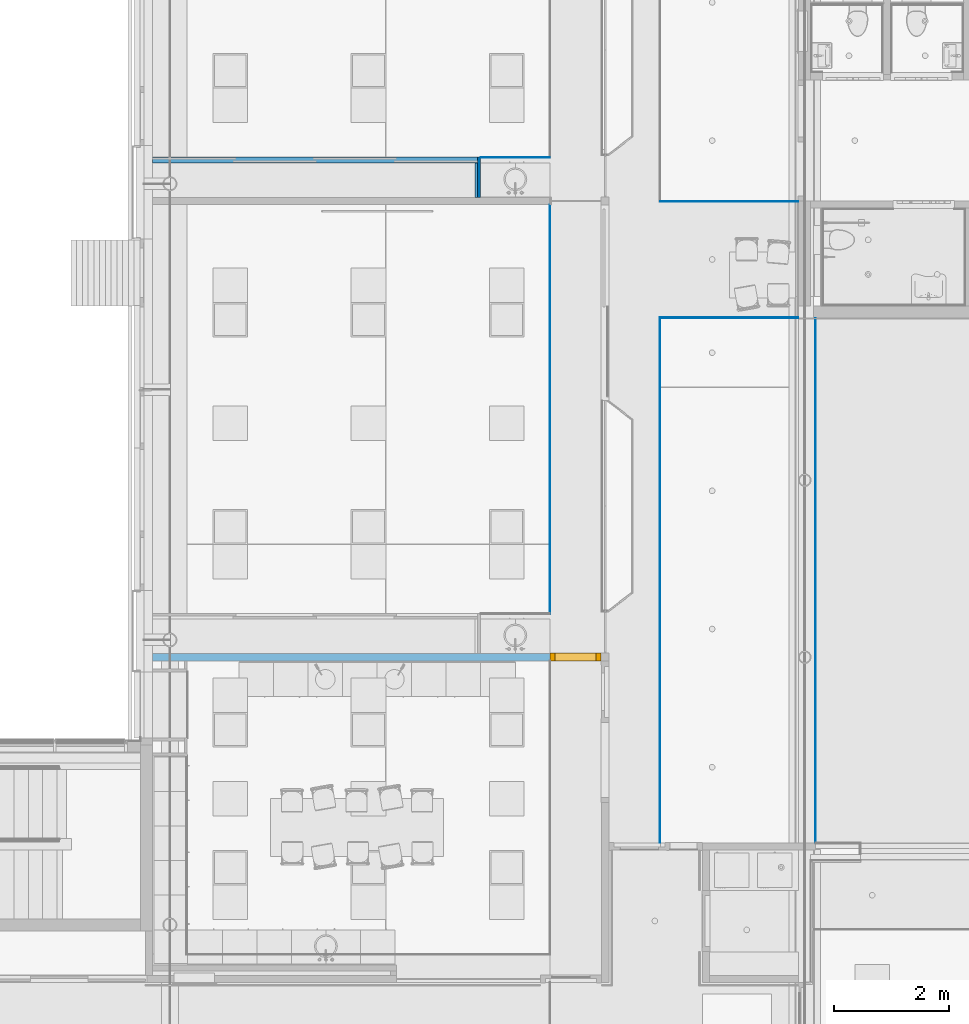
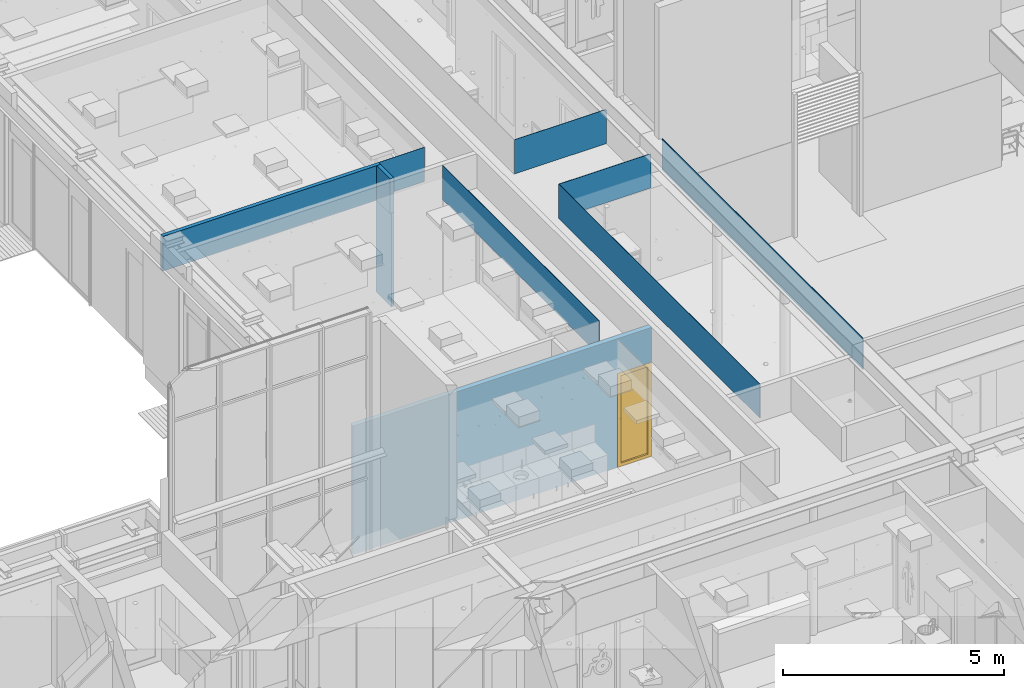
# One storey, part 71 of 347: 9 walls, 1 window, 1 opening, plus 1 element that does not belong to this part.
"""IFC2X3 building model written with IfcOpenShell, lengths in millimetres."""

from ifc_helpers import new_model, entity, si_unit, converted_unit, derived_unit, money_unit, direction, frame, origin_with_axes, place, context, subcontext, project, spatial, open_shell, faceted_brep, surface_model, material, type_object, element, fill, save


model = new_model("IFC2X3")

# Units and contexts
model_context = context("Model", 3, precision=0.01, world=origin_with_axes(), true_north=direction((0.0, 1.0)))
plan_context = context("Plan", 3, precision=0.01, world=origin_with_axes(), true_north=direction((0.0, 1.0)))
body_context = subcontext(model_context, "Body", "Model", "MODEL_VIEW")
ifc_project = project(units=[si_unit("LENGTHUNIT", "METRE", prefix="MILLI"), si_unit("AREAUNIT", "SQUARE_METRE"), si_unit("VOLUMEUNIT", "CUBIC_METRE"), converted_unit("PLANEANGLEUNIT", "DEGREE", entity("IfcPlaneAngleMeasure", 0.0174532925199), si_unit("PLANEANGLEUNIT", "RADIAN"), dimensions=[0, 0, 0, 0, 0, 0, 0]), money_unit("EUR"), converted_unit("TIMEUNIT", "Year", entity("IfcTimeMeasure", 31556926.0), si_unit("TIMEUNIT", "SECOND"), dimensions=[0, 0, 1, 0, 0, 0, 0]), si_unit("MASSUNIT", "GRAM", prefix="KILO"), si_unit("THERMODYNAMICTEMPERATUREUNIT", "DEGREE_CELSIUS"), si_unit("LUMINOUSINTENSITYUNIT", "LUMEN"), si_unit("ENERGYUNIT", "JOULE", prefix="MEGA"), derived_unit("THERMALCONDUCTANCEUNIT", [(si_unit("POWERUNIT", "WATT"), 1), (si_unit("LENGTHUNIT", "METRE"), -1), (si_unit("THERMODYNAMICTEMPERATUREUNIT", "KELVIN"), -1)]), derived_unit("SPECIFICHEATCAPACITYUNIT", [(si_unit("ENERGYUNIT", "JOULE"), 1), (si_unit("MASSUNIT", "GRAM", prefix="KILO"), -1), (si_unit("THERMODYNAMICTEMPERATUREUNIT", "KELVIN"), -1)]), derived_unit("MASSDENSITYUNIT", [(si_unit("MASSUNIT", "GRAM", prefix="KILO"), 1), (si_unit("VOLUMEUNIT", "CUBIC_METRE"), -1)])], contexts=[model_context, plan_context])

# Site, building, storey
site_placement = place(None, origin_with_axes())
site = spatial("IfcSite", under=ifc_project, at=site_placement, Name="Site", CompositionType="ELEMENT")
building_placement = place(site_placement, origin_with_axes())
building = spatial("IfcBuilding", under=site, at=building_placement, Name="Naam gebouw", CompositionType="ELEMENT")
storey_placement = place(building_placement, origin_with_axes())
storey = spatial("IfcBuildingStorey", under=building, at=storey_placement, Name="begane grond", CompositionType="ELEMENT", Elevation=0.0)

# Wall, opening, window
ifc_material_1 = material(Name="ALG - LICHTE SCHEIDINGSWAND")
wall_type_1 = type_object("IfcWallType", Name="ALG LSW 125 125", PredefinedType="NOTDEFINED")
wall_1_placement = place(storey_placement, frame((24275.0, 20050.0, 0.0), z_axis=(0.0, 0.0, 1.0), x_axis=(1.0, 0.0, 0.0)))
wall_1 = element("IfcWall", 1, at=wall_1_placement, inside=storey, type_object=wall_type_1, material=ifc_material_1, Name="22_GF 125 ECO DGS/2.75.2A", context=body_context, shape_type="Brep", body=[
    faceted_brep([(7793.0, 62.5, 2600.0), (6900.0, 62.5, 2600.0), (6900.0, 62.5, 0.0), (8.19561662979e-06, 62.5, -3.65078798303e-05), (8.19561662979e-06, 62.5, 3560.0), (7800.0, 62.5, 3559.99999992), (7800.0, 62.5, -1.15295062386e-06), (7793.0, 62.5, 0.0), (6900.0, -62.5, 2600.0), (7793.0, -62.5, 2600.0), (6900.0, -62.5, 0.0), (8.19561662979e-06, -62.5, -3.65078798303e-05), (8.19561662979e-06, -62.5, 3560.0), (7800.0, -62.5, 3559.99999992), (7800.0, -62.5, -1.15295062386e-06), (7793.0, -62.5, 0.0)], [[[0, 1, 2, 3, 4, 5, 6, 7]], [[8, 1, 0, 9]], [[10, 2, 1, 8]], [[3, 2, 10, 11]], [[12, 4, 3, 11]], [[5, 4, 12, 13]], [[14, 6, 5, 13]], [[14, 15, 7, 6]], [[9, 0, 7, 15]], [[8, 9, 15, 14, 13, 12, 11, 10]]]),
])
opening_placement = place(wall_1_placement, frame((7346.5, 0.0, 0.0), z_axis=(0.0, 0.0, 1.0), x_axis=(1.0, 0.0, 0.0)))
opening = element("IfcOpeningElement", 2, at=opening_placement, cuts=wall_1, Name="31_07.02", context=body_context, shape_type="Brep", body=[
    faceted_brep([(-446.5, 125.0, 2600.0), (-446.5, 125.0, 0.0), (-446.5, -257.0, 0.0), (-446.5, -257.0, 2600.0), (446.5, 125.0, 2600.0), (446.5, 125.0, 0.0), (446.5, -257.0, 0.0), (446.5, -257.0, 2600.0)], [[[0, 1, 2, 3]], [[0, 4, 5, 1]], [[1, 5, 6, 2]], [[3, 2, 6, 7]], [[4, 0, 3, 7]], [[5, 4, 7, 6]]]),
])
window_style = type_object("IfcWindowStyle", Name="Rmeerkeuze 25", ConstructionType="NOTDEFINED", OperationType="SINGLE_PANEL", ParameterTakesPrecedence=False, Sizeable=False)
window_placement = place(opening_placement, frame((446.5, 0.0, 0.0), z_axis=(0.0, 0.0, 1.0), x_axis=(-1.0, 0.0, 0.0)))
window = element("IfcWindow", 3, at=window_placement, inside=storey, type_object=window_style, Name="31_07.02", ObjectType="WINDOW", OverallHeight=2600.0, OverallWidth=893.0, context=body_context, shape_type="SurfaceModel", body=[
    faceted_brep([(90.0, -69.5, 2510.0), (90.0, 69.5, 2510.0), (0.0, 69.5, 2510.0), (0.0, -69.5, 2510.0), (90.0, -69.5, 90.0), (90.0, 69.5, 90.0), (0.0, 69.5, 90.0), (0.0, -69.5, 90.0)], [[[0, 1, 2, 3]], [[4, 5, 1, 0]], [[1, 5, 6, 2]], [[3, 2, 6, 7]], [[0, 3, 7, 4]], [[7, 6, 5, 4]]]),
    faceted_brep([(803.0, -69.5, 90.0), (803.0, 69.5, 90.0), (893.0, 69.5, 90.0), (893.0, -69.5, 90.0), (803.0, -69.5, 2510.0), (803.0, 69.5, 2510.0), (893.0, 69.5, 2510.0), (893.0, -69.5, 2510.0)], [[[0, 1, 2, 3]], [[4, 5, 1, 0]], [[1, 5, 6, 2]], [[3, 2, 6, 7]], [[0, 3, 7, 4]], [[7, 6, 5, 4]]]),
    faceted_brep([(90.0, -69.5, 90.0), (90.0, 69.5, 90.0), (0.0, 69.5, 90.0), (0.0, -69.5, 90.0), (803.0, -69.5, 90.0), (803.0, 69.5, 90.0), (893.0, 69.5, 90.0), (893.0, 69.5, 0.0), (0.0, 69.5, 0.0), (0.0, -69.5, 0.0), (893.0, -69.5, 0.0), (893.0, -69.5, 90.0)], [[[0, 1, 2, 3]], [[4, 5, 1, 0]], [[1, 5, 6, 7, 8, 2]], [[3, 2, 8, 9]], [[0, 3, 9, 10, 11, 4]], [[11, 6, 5, 4]], [[10, 7, 6, 11]], [[9, 8, 7, 10]]]),
    faceted_brep([(803.0, -69.5, 2510.0), (803.0, 69.5, 2510.0), (893.0, 69.5, 2510.0), (893.0, -69.5, 2510.0), (90.0, -69.5, 2510.0), (90.0, 69.5, 2510.0), (0.0, 69.5, 2510.0), (0.0, 69.5, 2600.0), (893.0, 69.5, 2600.0), (893.0, -69.5, 2600.0), (0.0, -69.5, 2600.0), (0.0, -69.5, 2510.0)], [[[0, 1, 2, 3]], [[4, 5, 1, 0]], [[1, 5, 6, 7, 8, 2]], [[3, 2, 8, 9]], [[0, 3, 9, 10, 11, 4]], [[11, 6, 5, 4]], [[10, 7, 6, 11]], [[9, 8, 7, 10]]]),
    surface_model("IfcShellBasedSurfaceModel", [(90.0, 5.5, 90.0), (803.0, 5.5, 90.0), (803.0, 5.5, 2510.0), (90.0, 5.5, 2510.0)], [open_shell([[[0, 1, 2, 3]]])]),
    surface_model("IfcShellBasedSurfaceModel", [(90.0, 25.5, 90.0), (90.0, 25.5, 2510.0), (803.0, 25.5, 2510.0), (803.0, 25.5, 90.0)], [open_shell([[[0, 1, 2, 3]]])]),
])
fill(opening, window)

# Walls
wall_type_2 = type_object("IfcWallType", Name="44 koof 50", PredefinedType="NOTDEFINED")
wall_2_placement = place(storey_placement, frame((33095.0, 16825.0, 2600.0), z_axis=(0.0, 0.0, 1.0), x_axis=(0.0, 1.0, 0.0)))
element("IfcWall", 4, at=wall_2_placement, inside=storey, type_object=wall_type_2, material=ifc_material_1, Name="21_22 betonwand", context=body_context, shape_type="Brep", body=[
    faceted_brep([(0.0, 0.0, 960.0), (0.0, 0.0, 12.0), (9127.00013226, 0.0, 12.0), (9127.00013226, 0.0, 960.0), (0.0, 12.0, 960.0), (0.0, 12.0, 12.0), (9127.00013226, 12.0, 12.0), (9127.00013226, 12.0, 960.0)], [[[0, 1, 2, 3]], [[4, 5, 1, 0]], [[5, 6, 2, 1]], [[3, 2, 6, 7]], [[0, 3, 7, 4]], [[7, 6, 5, 4]]]),
])
wall_3_placement = place(storey_placement, frame((35795.0, 16825.0, 3000.0), z_axis=(0.0, 0.0, 1.0), x_axis=(0.0, 1.0, 0.0)))
element("IfcWall", 5, at=wall_3_placement, inside=storey, type_object=wall_type_2, material=ifc_material_1, Name="21_22 betonwand", context=body_context, shape_type="Brep", body=[
    faceted_brep([(0.000945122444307, 0.0, 880.0), (0.0, 0.0, 12.0), (9115.0, 0.0, 12.0), (9115.0, 0.0, 880.0), (0.000945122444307, 12.0, 880.0), (0.0, 12.0, 12.0), (9115.0, 12.0000000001, 12.0), (9115.0, 12.0000000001, 880.0)], [[[0, 1, 2, 3]], [[4, 5, 1, 0]], [[5, 6, 2, 1]], [[3, 2, 6, 7]], [[3, 7, 4, 0]], [[7, 6, 5, 4]]]),
])
wall_4_placement = place(storey_placement, frame((33095.0, 25940.0001323, 2600.0), z_axis=(0.0, 0.0, 1.0), x_axis=(1.0, 0.0, 0.0)))
element("IfcWall", 6, at=wall_4_placement, inside=storey, type_object=wall_type_2, material=ifc_material_1, Name="21_22 betonwand", context=body_context, shape_type="Brep", body=[
    faceted_brep([(2400.00005485, 0.0, 960.0), (2400.00005485, -0.000132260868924, 12.0), (2400.00005485, 12.0, 12.0), (2400.00005485, 12.0, 960.0), (0.0, 0.0, 960.0), (0.0, -0.000132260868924, 12.0), (0.0, 12.0, 12.0), (0.0, 12.0, 960.0)], [[[0, 1, 2, 3]], [[4, 5, 1, 0]], [[5, 6, 2, 1]], [[3, 2, 6, 7]], [[7, 4, 0, 3]], [[7, 6, 5, 4]]]),
])
wall_5_placement = place(storey_placement, frame((35495.0000548, 27974.9998613, 2600.0), z_axis=(0.0, 0.0, 1.0), x_axis=(-1.0, 0.0, 0.0)))
element("IfcWall", 7, at=wall_5_placement, inside=storey, type_object=wall_type_2, material=ifc_material_1, Name="21_22 betonwand", context=body_context, shape_type="Brep", body=[
    faceted_brep([(0.0, 12.0, 960.0), (0.0, 12.0, 12.0), (0.0, 0.0, 12.0), (0.0, 0.0, 960.0), (2400.00005485, 12.0, 960.0), (2400.00005485, 12.0, 12.0), (2400.00005485, 0.0, 12.0), (2400.00005485, 0.0, 960.0)], [[[0, 1, 2, 3]], [[4, 5, 1, 0]], [[5, 6, 2, 1]], [[3, 2, 6, 7]], [[3, 7, 4, 0]], [[7, 6, 5, 4]]]),
])
wall_6_placement = place(storey_placement, frame((29975.0, 28737.5, 2600.0), z_axis=(0.0, 0.0, 1.0), x_axis=(1.0, 0.0, 0.0)))
element("IfcWall", 8, at=wall_6_placement, inside=storey, type_object=wall_type_2, material=ifc_material_1, Name="21_22 betonwand", context=body_context, shape_type="Brep", body=[
    faceted_brep([(1200.0, -12.0, 960.0), (1200.0, -12.0, 12.0), (1200.0, 0.0, 12.0), (1200.0, 0.0, 960.0), (0.0, -12.0, 959.99999995), (0.0, -12.0, 12.0), (0.0, 0.0, 12.0), (0.0, 0.0, 959.99999995)], [[[0, 1, 2, 3]], [[4, 5, 1, 0]], [[5, 6, 2, 1]], [[3, 2, 6, 7]], [[0, 3, 7, 4]], [[7, 6, 5, 4]]]),
])
wall_7_placement = place(storey_placement, frame((31175.0, 20812.5, 2600.0), z_axis=(0.0, 0.0, 1.0), x_axis=(0.0, 1.0, 0.0)))
element("IfcWall", 9, at=wall_7_placement, inside=storey, type_object=wall_type_2, material=ifc_material_1, Name="21_22 betonwand", context=body_context, shape_type="Brep", body=[
    faceted_brep([(-12.0, -12.0, 960.0), (-12.0, -12.0, 12.0), (7100.0, -12.0, 12.0), (7100.0, -12.0, 960.0), (-12.0, 0.0, 960.0), (-12.0, 0.0, 12.0), (7100.0, 0.0, 12.0), (7100.0, 0.0, 960.0)], [[[0, 1, 2, 3]], [[4, 5, 1, 0]], [[6, 2, 1, 5]], [[3, 2, 6, 7]], [[0, 3, 7, 4]], [[6, 5, 4, 7]]]),
])
ifc_material_2 = material(Name="32 schuideur")
wall_type_3 = type_object("IfcWallType", Name="32 schuideur 60", PredefinedType="NOTDEFINED")
wall_8_placement = place(storey_placement, frame((29915.0, 27975.0, 0.0), z_axis=(0.0, 0.0, 1.0), x_axis=(0.0, 1.0, 0.0)))
element("IfcWall", 10, at=wall_8_placement, inside=storey, type_object=wall_type_3, material=ifc_material_2, Name="22_GF 100 RD/2.50.2.", context=body_context, shape_type="Brep", body=[
    faceted_brep([(62.5, -60.0, 2600.0), (762.5, -60.0, 2600.0), (762.5, 0.0, 2600.0), (62.5, 0.0, 2600.0), (62.5, -60.0, 0.0), (762.5, -60.0, 0.0), (762.5, 0.0, 0.0), (62.5, 0.0, 0.0)], [[[0, 1, 2, 3]], [[4, 5, 1, 0]], [[2, 1, 5, 6]], [[3, 2, 6, 7]], [[4, 0, 3, 7]], [[7, 6, 5, 4]]]),
])
wall_type_4 = type_object("IfcWallType", Name="ALG LSW 100 kast 100", PredefinedType="NOTDEFINED")
wall_9_placement = place(storey_placement, frame((29975.0, 27975.0, 2600.0), z_axis=(0.0, 0.0, 1.0), x_axis=(0.0, 1.0, 0.0)))
element("IfcWall", 11, at=wall_9_placement, inside=storey, type_object=wall_type_4, material=ifc_material_1, Name="22_GF 125 ECO DGS/2.75.2A", context=body_context, shape_type="Brep", body=[
    faceted_brep([(662.5, 100.0, 0.0), (662.5, 0.0, 0.0), (62.5, 0.0, 0.0), (62.5, 100.0, 0.0), (662.5, 100.0, 960.0), (662.5, 0.0, 960.0), (62.5, 0.0, 960.0), (62.5, 100.0, 960.0)], [[[0, 1, 2, 3]], [[1, 0, 4, 5]], [[1, 5, 6, 2]], [[7, 3, 2, 6]], [[4, 0, 3, 7]], [[5, 4, 7, 6]]]),
])
wall_10_placement = place(storey_placement, frame((29975.0, 28737.5, 2600.0), z_axis=(0.0, 0.0, 1.0), x_axis=(-1.0, 0.0, 0.0)))
element("IfcWall", 12, at=wall_10_placement, inside=storey, type_object=wall_type_4, material=ifc_material_1, Name="22_GF 125 ECO DGS/2.75.2A", context=body_context, shape_type="Brep", body=[
    faceted_brep([(0.0, 0.0, 0.0), (5699.9999918, 0.0, 0.0), (5699.9999918, 0.0, 960.0), (0.0, 0.0, 959.99999995), (0.0, 100.0, 0.0), (5699.9999918, 100.0, 0.0), (5699.9999918, 100.0, 960.0), (0.0, 100.0, 959.99999995)], [[[0, 1, 2, 3]], [[4, 5, 1, 0]], [[6, 2, 1, 5]], [[3, 2, 6, 7]], [[4, 0, 3, 7]], [[6, 5, 4, 7]]]),
])

save(model, "model.ifc")
